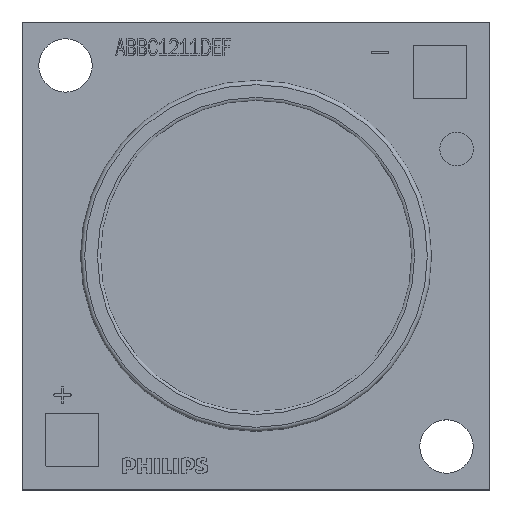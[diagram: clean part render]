
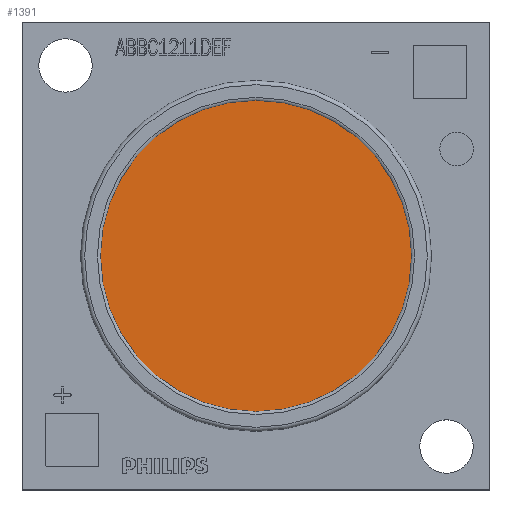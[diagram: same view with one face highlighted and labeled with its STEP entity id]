
A CAD part, top view. The second image highlights one B-rep face of the part: STEP entity #1391.
In plain terms, the highlighted planar face has unit normal (0, 0, 1).
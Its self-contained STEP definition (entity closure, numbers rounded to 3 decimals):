
#936=FACE_OUTER_BOUND('',#4368,.T.);
#1391=ADVANCED_FACE('',(#936),#1798,.T.);
#1798=PLANE('',#9537);
#4368=EDGE_LOOP('',(#6886));
#6886=ORIENTED_EDGE('',*,*,#8990,.T.);
#7731=VERTEX_POINT('',#15136);
#8990=EDGE_CURVE('',#7731,#7731,#9047,.T.);
#9047=CIRCLE('',#9536,9.313);
#9536=AXIS2_PLACEMENT_3D('',#15135,#11539,#11540);
#9537=AXIS2_PLACEMENT_3D('',#15137,#11541,#11542);
#11539=DIRECTION('',(0.,0.,1.));
#11540=DIRECTION('',(-1.,0.,0.));
#11541=DIRECTION('',(0.,0.,1.));
#11542=DIRECTION('',(-1.,0.,0.));
#15135=CARTESIAN_POINT('',(0.,0.,1.53));
#15136=CARTESIAN_POINT('',(-9.313,0.,1.53));
#15137=CARTESIAN_POINT('',(0.,0.,1.53));
